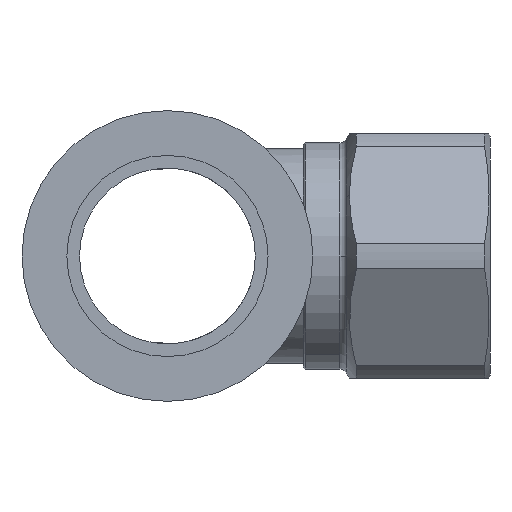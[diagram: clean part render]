
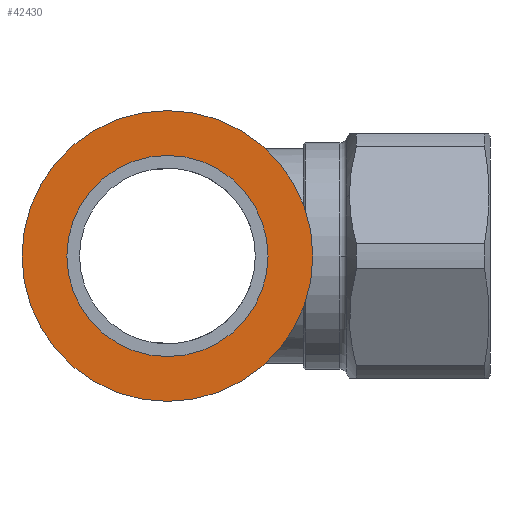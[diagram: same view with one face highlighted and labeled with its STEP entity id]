
A CAD part, left-side view. The second image highlights one B-rep face of the part: STEP entity #42430.
In plain terms, the highlighted planar face has unit normal (-1, 0, 0).
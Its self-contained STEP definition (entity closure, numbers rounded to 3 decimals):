
#41950=CARTESIAN_POINT('',(14.45,35.657,0.));
#41960=VERTEX_POINT('',#41950);
#41990=CARTESIAN_POINT('',(14.45,46.757,0.));
#42000=DIRECTION('',(-1.,0.,0.));
#42010=DIRECTION('',(0.,-1.,0.));
#42020=AXIS2_PLACEMENT_3D('',#41990,#42000,#42010);
#42030=CIRCLE('',#42020,11.1);
#42040=CARTESIAN_POINT('',(14.45,57.857,0.));
#42050=VERTEX_POINT('',#42040);
#42060=EDGE_CURVE('',#42050,#41960,#42030,.T.);
#42180=CARTESIAN_POINT('',(14.45,32.257,0.));
#42190=DIRECTION('',(-1.,0.,0.));
#42200=DIRECTION('',(0.,-1.,0.));
#42210=AXIS2_PLACEMENT_3D('',#42180,#42190,#42200);
#42220=PLANE('',#42210);
#42230=EDGE_CURVE('',#41960,#42050,#42030,.T.);
#42240=ORIENTED_EDGE('',*,*,#42230,.F.);
#42250=ORIENTED_EDGE('',*,*,#42060,.F.);
#42260=EDGE_LOOP('',(#42250,#42240));
#42270=FACE_BOUND('',#42260,.T.);
#42280=CARTESIAN_POINT('',(14.45,46.757,0.));
#42290=DIRECTION('',(-1.,0.,0.));
#42300=DIRECTION('',(0.,-1.,0.));
#42310=AXIS2_PLACEMENT_3D('',#42280,#42290,#42300);
#42320=CIRCLE('',#42310,16.05);
#42330=CARTESIAN_POINT('',(14.45,30.707,0.));
#42340=VERTEX_POINT('',#42330);
#42350=CARTESIAN_POINT('',(14.45,62.807,0.));
#42360=VERTEX_POINT('',#42350);
#42370=EDGE_CURVE('',#42340,#42360,#42320,.T.);
#42380=ORIENTED_EDGE('',*,*,#42370,.T.);
#42390=EDGE_CURVE('',#42360,#42340,#42320,.T.);
#42400=ORIENTED_EDGE('',*,*,#42390,.T.);
#42410=EDGE_LOOP('',(#42400,#42380));
#42420=FACE_OUTER_BOUND('',#42410,.T.);
#42430=ADVANCED_FACE('',(#42270,#42420),#42220,.T.);
